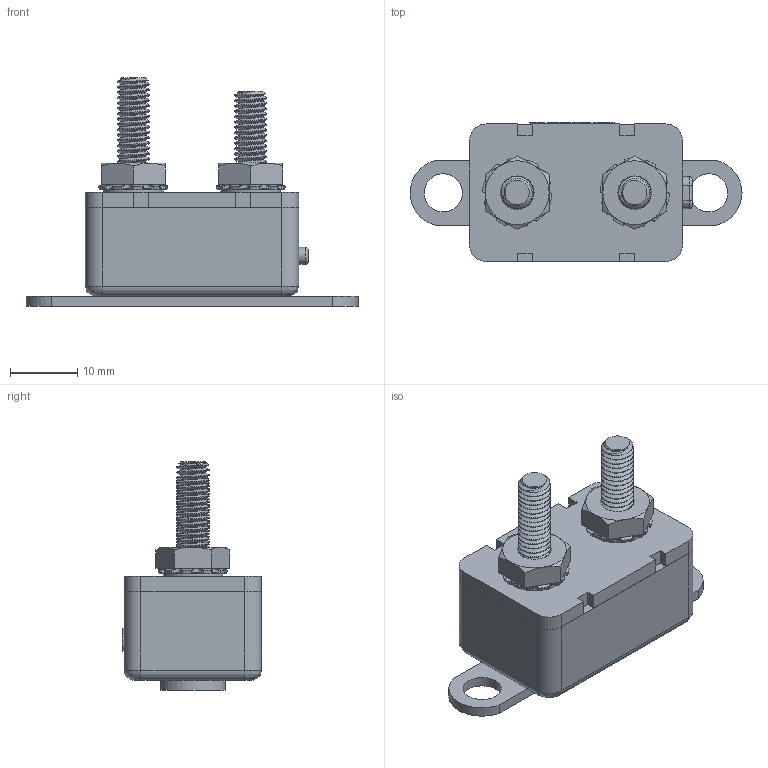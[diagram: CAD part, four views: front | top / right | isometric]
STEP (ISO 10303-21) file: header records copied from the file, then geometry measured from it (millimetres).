
FILE_DESCRIPTION(/* description */ (''),/* implementation_level */ '2;1');
FILE_NAME(/* name */ 'C:\Users\Hani\Desktop\work\MRCB-24-V\MRCB-24-V.stp',/* time_stamp */ '2021-08-06T14:18:34-07:00',/* author */ ('Hani'),/* organization */ (''),/* preprocessor_version */ 'ST-DEVELOPER v17',/* originating_system */ 'Autodesk Inventor 2019',/* authorisation */ '');
FILE_SCHEMA (('AUTOMOTIVE_DESIGN { 1 0 10303 214 3 1 1 }'));
Length unit declared in the file: inch
Products named in the file (4): ACBP-V; ACBP-V_1; THREADED ROD; HEX NUT WITH TOOTH WASHER
Assembly tree (5 placements, depth 2):
  ACBP-V
    ACBP-V_1
    THREADED ROD  x2
    HEX NUT WITH TOOTH WASHER  x2
Bounding box: 49.53 x 20.76 x 34.16 mm (x, y, z)
Volume: 11659.2 mm3; surface area: 6545.3 mm2
Topology: 8 solids, 8 shells, 465 faces, 1280 edges, 848 vertices
Faces by surface type: cylinder 164, plane 134, bspline 119, cone 46, torus 2
Full cylindrical faces by diameter (mm): 3.795 x46, 3.967 x6, 4.826 x52, 5.7 x2, 6.413 x2, 8.89 x2
Entity records: 16644 total; most frequent: CARTESIAN_POINT 8762, ORIENTED_EDGE 1816, DIRECTION 1218, EDGE_CURVE 908, VERTEX_POINT 600, LINE 428, VECTOR 428, AXIS2_PLACEMENT_3D 395
